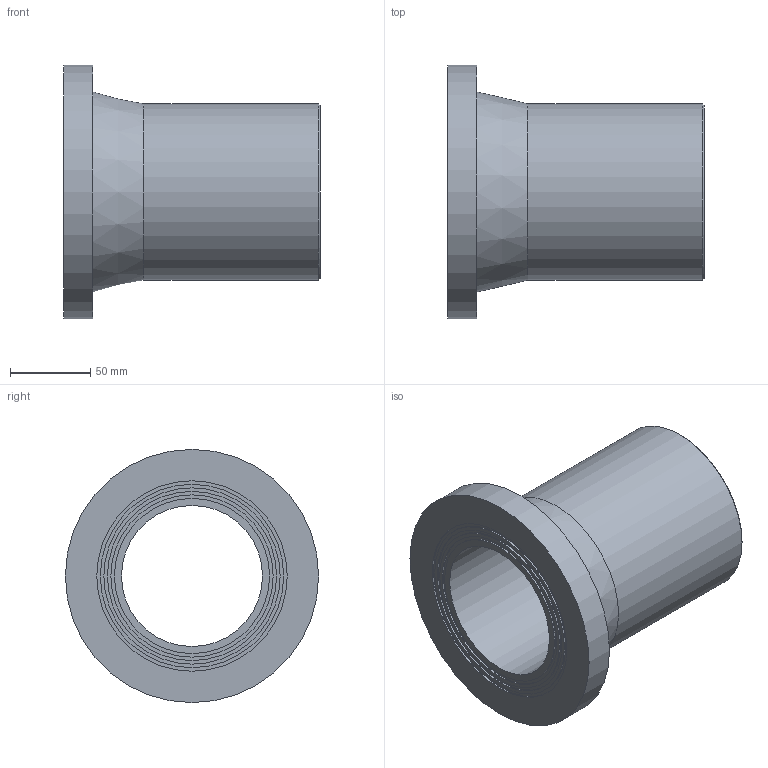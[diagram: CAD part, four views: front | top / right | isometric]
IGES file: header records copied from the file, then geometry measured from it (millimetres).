
Global section: file name: 490207110.ipt; native system: Autodesk Inventor 2015; preprocessor: unknown; author: Кирилл,,11,0; organization: 20170718.095537; date: 20190331.185819; units: millimetre
Bounding box: 160 x 158 x 158 mm (x, y, z)
Volume: 769939.2 mm3; surface area: 129605.6 mm2
Topology: 1 solids, 1 shells, 20 faces, 33 edges, 22 vertices
Faces by surface type: plane 9, cylinder 5, revolution 4, cone 2
Full cylindrical faces by diameter (mm): 96.8 x1, 105.6 x1, 110 x1, 114.4 x1, 158 x1
